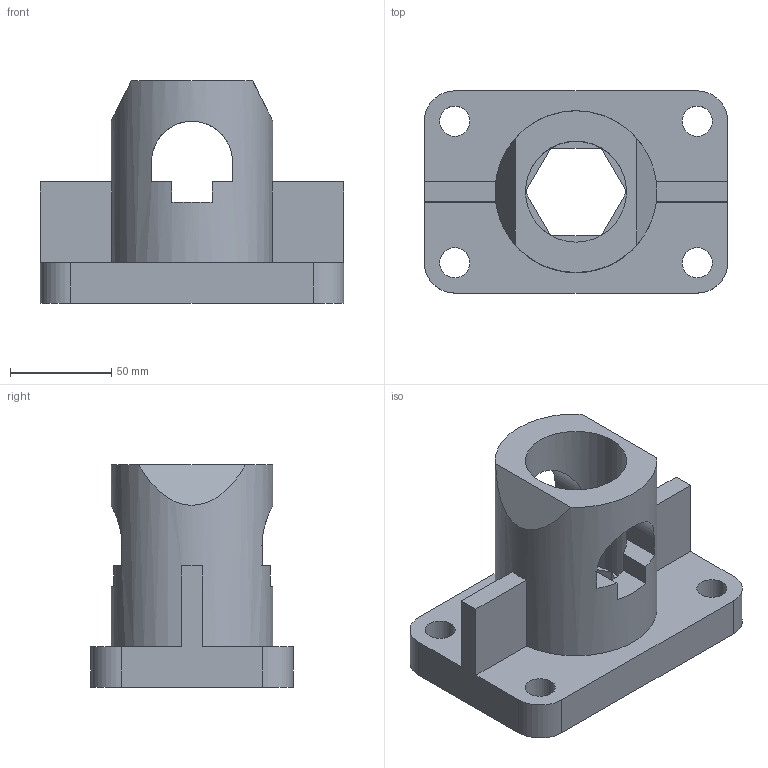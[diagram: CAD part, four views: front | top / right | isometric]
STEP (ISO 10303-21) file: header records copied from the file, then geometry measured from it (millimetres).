
FILE_DESCRIPTION(('TFLEX Exchange Step'),'2;1');
FILE_NAME('X2\041A043E0440043F04430441\X0\ вар2.stp', '2025-06-24T11:11:03+03:00',('alymo'),('Unknown organisation'),'TFLEX Exchange 2023.0','T-FLEX CAD','Unknown authorisation');
FILE_SCHEMA( ('AUTOMOTIVE_DESIGN { 1 0 10303 214 1 1 1 1 }') );
Length unit declared in the file: millimetre
Products named in the file (1): Nodes
Bounding box: 150 x 100 x 110 mm (x, y, z)
Volume: 511685.8 mm3; surface area: 82497 mm2
Topology: 1 solids, 1 shells, 54 faces, 164 edges, 112 vertices
Faces by surface type: plane 42, cylinder 12
Full cylindrical faces by diameter (mm): 15 x4, 50 x1, 80 x1
Entity records: 2303 total; most frequent: CARTESIAN_POINT 736, ORIENTED_EDGE 328, DIRECTION 320, EDGE_CURVE 164, AXIS2_PLACEMENT_3D 113, VERTEX_POINT 112, VECTOR 94, LINE 94
